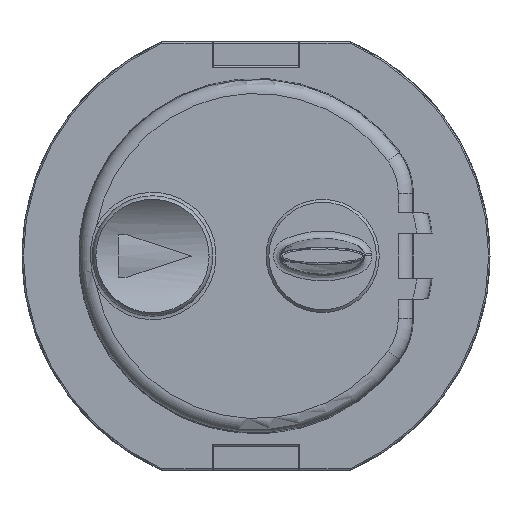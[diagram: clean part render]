
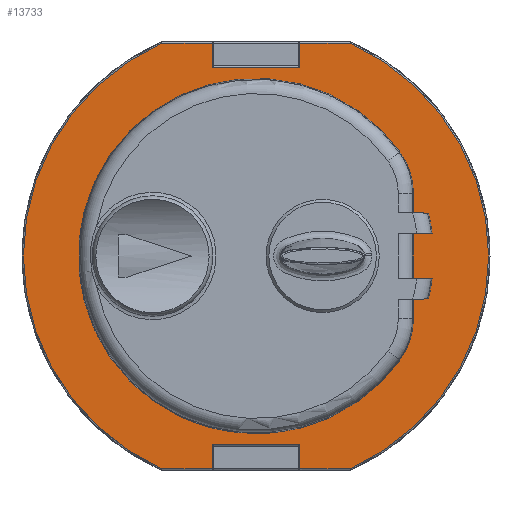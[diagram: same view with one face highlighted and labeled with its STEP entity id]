
A CAD part, front view. The second image highlights one B-rep face of the part: STEP entity #13733.
In plain terms, the highlighted planar face has unit normal (0, -1, 0).
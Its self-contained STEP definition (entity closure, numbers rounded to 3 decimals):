
#180=CIRCLE('',#14535,12.525);
#207=CIRCLE('',#14583,16.4);
#208=CIRCLE('',#14584,16.4);
#209=CIRCLE('',#14585,12.525);
#210=CIRCLE('',#14586,5.);
#211=CIRCLE('',#14587,5.);
#212=CIRCLE('',#14588,12.525);
#702=FACE_BOUND('',#2144,.T.);
#754=PLANE('',#14582);
#1398=FACE_OUTER_BOUND('',#2143,.T.);
#2143=EDGE_LOOP('',(#9213,#9214,#9215,#9216,#9217,#9218,#9219,#9220,#9221,
#9222,#9223,#9224));
#2144=EDGE_LOOP('',(#9225,#9226,#9227,#9228,#9229,#9230,#9231,#9232,#9233,
#9234,#9235,#9236));
#3192=LINE('',#23416,#4419);
#3193=LINE('',#23418,#4420);
#3194=LINE('',#23420,#4421);
#3195=LINE('',#23422,#4422);
#3196=LINE('',#23424,#4423);
#3197=LINE('',#23428,#4424);
#3198=LINE('',#23430,#4425);
#3199=LINE('',#23432,#4426);
#3200=LINE('',#23434,#4427);
#3201=LINE('',#23435,#4428);
#3202=LINE('',#23440,#4429);
#3203=LINE('',#23442,#4430);
#3204=LINE('',#23447,#4431);
#3205=LINE('',#23449,#4432);
#3206=LINE('',#23453,#4433);
#3207=LINE('',#23455,#4434);
#3208=LINE('',#23456,#4435);
#4419=VECTOR('',#16108,1.);
#4420=VECTOR('',#16109,1.);
#4421=VECTOR('',#16110,1.);
#4422=VECTOR('',#16111,1.);
#4423=VECTOR('',#16112,1.);
#4424=VECTOR('',#16115,1.);
#4425=VECTOR('',#16116,1.);
#4426=VECTOR('',#16117,1.);
#4427=VECTOR('',#16118,1.);
#4428=VECTOR('',#16119,1.);
#4429=VECTOR('',#16122,1.);
#4430=VECTOR('',#16123,1.);
#4431=VECTOR('',#16128,1.);
#4432=VECTOR('',#16129,1.);
#4433=VECTOR('',#16132,1.);
#4434=VECTOR('',#16133,1.);
#4435=VECTOR('',#16134,1.);
#5687=VERTEX_POINT('',#22826);
#5690=VERTEX_POINT('',#22831);
#5767=VERTEX_POINT('',#23412);
#5768=VERTEX_POINT('',#23413);
#5769=VERTEX_POINT('',#23415);
#5770=VERTEX_POINT('',#23417);
#5771=VERTEX_POINT('',#23419);
#5772=VERTEX_POINT('',#23421);
#5773=VERTEX_POINT('',#23423);
#5774=VERTEX_POINT('',#23425);
#5775=VERTEX_POINT('',#23427);
#5776=VERTEX_POINT('',#23429);
#5777=VERTEX_POINT('',#23431);
#5778=VERTEX_POINT('',#23433);
#5779=VERTEX_POINT('',#23436);
#5780=VERTEX_POINT('',#23437);
#5781=VERTEX_POINT('',#23439);
#5782=VERTEX_POINT('',#23441);
#5783=VERTEX_POINT('',#23444);
#5784=VERTEX_POINT('',#23446);
#5785=VERTEX_POINT('',#23448);
#5786=VERTEX_POINT('',#23450);
#5787=VERTEX_POINT('',#23452);
#5788=VERTEX_POINT('',#23454);
#7034=EDGE_CURVE('',#5690,#5687,#180,.T.);
#7122=EDGE_CURVE('',#5767,#5768,#207,.T.);
#7123=EDGE_CURVE('',#5768,#5769,#3192,.T.);
#7124=EDGE_CURVE('',#5769,#5770,#3193,.T.);
#7125=EDGE_CURVE('',#5770,#5771,#3194,.T.);
#7126=EDGE_CURVE('',#5771,#5772,#3195,.T.);
#7127=EDGE_CURVE('',#5772,#5773,#3196,.T.);
#7128=EDGE_CURVE('',#5773,#5774,#208,.T.);
#7129=EDGE_CURVE('',#5774,#5775,#3197,.T.);
#7130=EDGE_CURVE('',#5775,#5776,#3198,.T.);
#7131=EDGE_CURVE('',#5776,#5777,#3199,.T.);
#7132=EDGE_CURVE('',#5777,#5778,#3200,.T.);
#7133=EDGE_CURVE('',#5778,#5767,#3201,.T.);
#7134=EDGE_CURVE('',#5779,#5780,#209,.T.);
#7135=EDGE_CURVE('',#5781,#5779,#3202,.T.);
#7136=EDGE_CURVE('',#5781,#5782,#3203,.T.);
#7137=EDGE_CURVE('',#5782,#5687,#210,.T.);
#7138=EDGE_CURVE('',#5690,#5783,#211,.T.);
#7139=EDGE_CURVE('',#5784,#5783,#3204,.T.);
#7140=EDGE_CURVE('',#5784,#5785,#3205,.T.);
#7141=EDGE_CURVE('',#5786,#5785,#212,.T.);
#7142=EDGE_CURVE('',#5787,#5786,#3206,.T.);
#7143=EDGE_CURVE('',#5787,#5788,#3207,.T.);
#7144=EDGE_CURVE('',#5788,#5780,#3208,.T.);
#9213=ORIENTED_EDGE('',*,*,#7122,.T.);
#9214=ORIENTED_EDGE('',*,*,#7123,.T.);
#9215=ORIENTED_EDGE('',*,*,#7124,.T.);
#9216=ORIENTED_EDGE('',*,*,#7125,.T.);
#9217=ORIENTED_EDGE('',*,*,#7126,.T.);
#9218=ORIENTED_EDGE('',*,*,#7127,.T.);
#9219=ORIENTED_EDGE('',*,*,#7128,.T.);
#9220=ORIENTED_EDGE('',*,*,#7129,.T.);
#9221=ORIENTED_EDGE('',*,*,#7130,.T.);
#9222=ORIENTED_EDGE('',*,*,#7131,.T.);
#9223=ORIENTED_EDGE('',*,*,#7132,.T.);
#9224=ORIENTED_EDGE('',*,*,#7133,.T.);
#9225=ORIENTED_EDGE('',*,*,#7134,.F.);
#9226=ORIENTED_EDGE('',*,*,#7135,.F.);
#9227=ORIENTED_EDGE('',*,*,#7136,.T.);
#9228=ORIENTED_EDGE('',*,*,#7137,.T.);
#9229=ORIENTED_EDGE('',*,*,#7034,.F.);
#9230=ORIENTED_EDGE('',*,*,#7138,.T.);
#9231=ORIENTED_EDGE('',*,*,#7139,.F.);
#9232=ORIENTED_EDGE('',*,*,#7140,.T.);
#9233=ORIENTED_EDGE('',*,*,#7141,.F.);
#9234=ORIENTED_EDGE('',*,*,#7142,.F.);
#9235=ORIENTED_EDGE('',*,*,#7143,.T.);
#9236=ORIENTED_EDGE('',*,*,#7144,.T.);
#13733=ADVANCED_FACE('',(#1398,#702),#754,.T.);
#14535=AXIS2_PLACEMENT_3D('',#22833,#15991,#15992);
#14582=AXIS2_PLACEMENT_3D('',#23411,#16104,#16105);
#14583=AXIS2_PLACEMENT_3D('',#23414,#16106,#16107);
#14584=AXIS2_PLACEMENT_3D('',#23426,#16113,#16114);
#14585=AXIS2_PLACEMENT_3D('',#23438,#16120,#16121);
#14586=AXIS2_PLACEMENT_3D('',#23443,#16124,#16125);
#14587=AXIS2_PLACEMENT_3D('',#23445,#16126,#16127);
#14588=AXIS2_PLACEMENT_3D('',#23451,#16130,#16131);
#15991=DIRECTION('center_axis',(0.,-1.,0.));
#15992=DIRECTION('ref_axis',(0.,0.,-1.));
#16104=DIRECTION('center_axis',(0.,-1.,0.));
#16105=DIRECTION('ref_axis',(0.,0.,-1.));
#16106=DIRECTION('center_axis',(0.,-1.,0.));
#16107=DIRECTION('ref_axis',(0.,0.,-1.));
#16108=DIRECTION('',(-1.,0.,0.));
#16109=DIRECTION('',(0.,0.,-1.));
#16110=DIRECTION('',(-1.,0.,0.));
#16111=DIRECTION('',(0.,0.,1.));
#16112=DIRECTION('',(-1.,0.,0.));
#16113=DIRECTION('center_axis',(0.,-1.,0.));
#16114=DIRECTION('ref_axis',(0.,0.,-1.));
#16115=DIRECTION('',(1.,0.,0.));
#16116=DIRECTION('',(0.,0.,1.));
#16117=DIRECTION('',(1.,0.,0.));
#16118=DIRECTION('',(0.,0.,-1.));
#16119=DIRECTION('',(1.,0.,0.));
#16120=DIRECTION('center_axis',(0.,-1.,0.));
#16121=DIRECTION('ref_axis',(0.,0.,-1.));
#16122=DIRECTION('',(1.,0.,0.026));
#16123=DIRECTION('',(0.,0.,-1.));
#16124=DIRECTION('center_axis',(0.,1.,0.));
#16125=DIRECTION('ref_axis',(0.,0.,-1.));
#16126=DIRECTION('center_axis',(0.,1.,0.));
#16127=DIRECTION('ref_axis',(0.,0.,-1.));
#16128=DIRECTION('',(0.,0.,1.));
#16129=DIRECTION('',(1.,0.,-0.026));
#16130=DIRECTION('center_axis',(0.,-1.,0.));
#16131=DIRECTION('ref_axis',(0.,0.,-1.));
#16132=DIRECTION('',(1.,0.,0.026));
#16133=DIRECTION('',(0.,0.,-1.));
#16134=DIRECTION('',(1.,0.,-0.026));
#22826=CARTESIAN_POINT('',(10.153,0.6,-7.334));
#22831=CARTESIAN_POINT('',(10.153,0.6,7.334));
#22833=CARTESIAN_POINT('Origin',(0.,0.6,0.));
#23411=CARTESIAN_POINT('Origin',(-12.525,0.6,0.));
#23412=CARTESIAN_POINT('',(6.63,0.6,-15.));
#23413=CARTESIAN_POINT('',(6.63,0.6,15.));
#23414=CARTESIAN_POINT('Origin',(0.,0.6,0.));
#23415=CARTESIAN_POINT('',(3.1,0.6,15.));
#23416=CARTESIAN_POINT('',(-12.525,0.6,15.));
#23417=CARTESIAN_POINT('',(3.1,0.6,13.3));
#23418=CARTESIAN_POINT('',(3.1,0.6,0.));
#23419=CARTESIAN_POINT('',(-3.1,0.6,13.3));
#23420=CARTESIAN_POINT('',(-12.525,0.6,13.3));
#23421=CARTESIAN_POINT('',(-3.1,0.6,15.));
#23422=CARTESIAN_POINT('',(-3.1,0.6,15.1));
#23423=CARTESIAN_POINT('',(-6.63,0.6,15.));
#23424=CARTESIAN_POINT('',(-12.525,0.6,15.));
#23425=CARTESIAN_POINT('',(-6.63,0.6,-15.));
#23426=CARTESIAN_POINT('Origin',(0.,0.6,0.));
#23427=CARTESIAN_POINT('',(-3.1,0.6,-15.));
#23428=CARTESIAN_POINT('',(-12.525,0.6,-15.));
#23429=CARTESIAN_POINT('',(-3.1,0.6,-13.3));
#23430=CARTESIAN_POINT('',(-3.1,0.6,0.));
#23431=CARTESIAN_POINT('',(3.1,0.6,-13.3));
#23432=CARTESIAN_POINT('',(-12.525,0.6,-13.3));
#23433=CARTESIAN_POINT('',(3.1,0.6,-15.));
#23434=CARTESIAN_POINT('',(3.1,0.6,-15.1));
#23435=CARTESIAN_POINT('',(-12.525,0.6,-15.));
#23436=CARTESIAN_POINT('',(12.155,0.6,-3.022));
#23437=CARTESIAN_POINT('',(12.42,0.6,-1.62));
#23438=CARTESIAN_POINT('Origin',(0.,0.6,0.));
#23439=CARTESIAN_POINT('',(11.1,0.6,-3.05));
#23440=CARTESIAN_POINT('',(11.1,0.6,-3.05));
#23441=CARTESIAN_POINT('',(11.1,0.6,-4.406));
#23442=CARTESIAN_POINT('',(11.1,0.6,0.));
#23443=CARTESIAN_POINT('Origin',(6.1,0.6,-4.406));
#23444=CARTESIAN_POINT('',(11.1,0.6,4.406));
#23445=CARTESIAN_POINT('Origin',(6.1,0.6,4.406));
#23446=CARTESIAN_POINT('',(11.1,0.6,3.05));
#23447=CARTESIAN_POINT('',(11.1,0.6,0.));
#23448=CARTESIAN_POINT('',(12.155,0.6,3.022));
#23449=CARTESIAN_POINT('',(-12.429,0.6,3.666));
#23450=CARTESIAN_POINT('',(12.42,0.6,1.62));
#23451=CARTESIAN_POINT('Origin',(0.,0.6,0.));
#23452=CARTESIAN_POINT('',(11.1,0.6,1.585));
#23453=CARTESIAN_POINT('',(11.1,0.6,1.585));
#23454=CARTESIAN_POINT('',(11.1,0.6,-1.585));
#23455=CARTESIAN_POINT('',(11.1,0.6,0.));
#23456=CARTESIAN_POINT('',(-12.55,0.6,-0.966));
